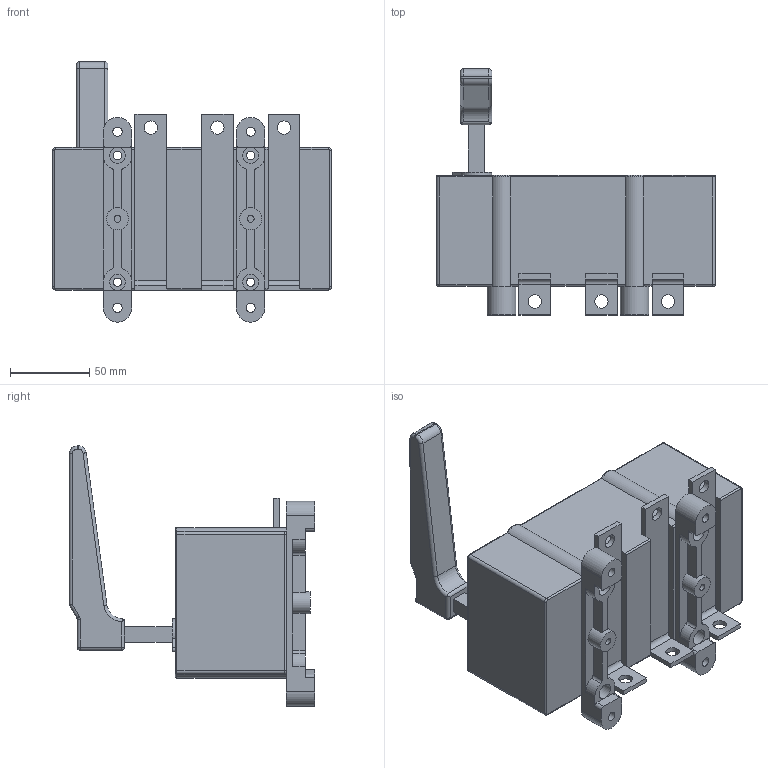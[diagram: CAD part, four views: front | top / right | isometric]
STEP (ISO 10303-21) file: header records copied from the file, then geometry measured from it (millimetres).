
FILE_DESCRIPTION(/* description */ (''),/* implementation_level */ '2;1');
FILE_NAME(/* name */ 'RA250 P3 B-R.stp',/* time_stamp */ '2021-08-18T08:21:32+02:00',/* author */ (''),/* organization */ (''),/* preprocessor_version */ 'ST-DEVELOPER v18.1',/* originating_system */ 'SIEMENS PLM Software NX 1965',/* authorisation */ '');
FILE_SCHEMA (('AUTOMOTIVE_DESIGN { 1 0 10303 214 3 1 1 1 }'));
Length unit declared in the file: millimetre
Products named in the file (1): RA250 P3 B-R_stp
Bounding box: 176 x 155 x 164.18 mm (x, y, z)
Volume: 1186077.7 mm3; surface area: 107249.8 mm2
Topology: 1 solids, 1 shells, 247 faces, 643 edges, 401 vertices
Faces by surface type: cylinder 113, plane 108, torus 15, sphere 6, bspline 5
Full cylindrical faces by diameter (mm): 4.3 x2, 5.3 x4, 5.8 x4, 8.5 x6, 10 x8, 14 x2
Entity records: 7445 total; most frequent: CARTESIAN_POINT 1427, DIRECTION 1294, ORIENTED_EDGE 1192, EDGE_CURVE 596, AXIS2_PLACEMENT_3D 477, VERTEX_POINT 386, LINE 340, VECTOR 340
